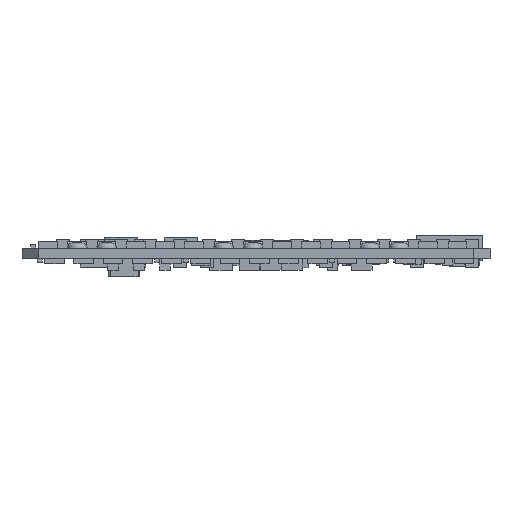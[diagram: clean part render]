
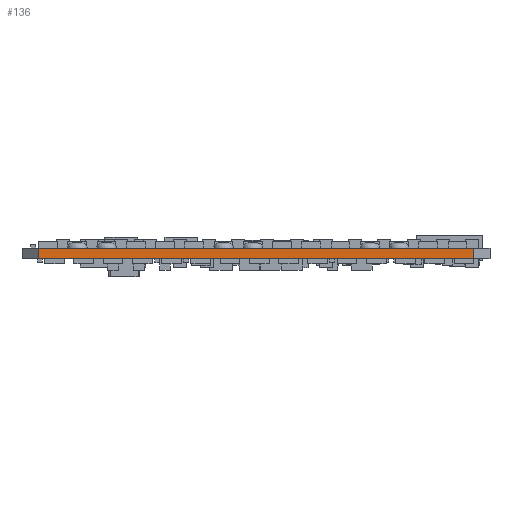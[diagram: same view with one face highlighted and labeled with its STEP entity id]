
A CAD part, front view. The second image highlights one B-rep face of the part: STEP entity #136.
In plain terms, the highlighted face is a extrusion surface.
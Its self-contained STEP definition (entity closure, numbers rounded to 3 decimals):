
#21 = EDGE_CURVE('',#22,#24,#26,.T.);
#22 = VERTEX_POINT('',#23);
#23 = CARTESIAN_POINT('',(2.5,0.,0.));
#24 = VERTEX_POINT('',#25);
#25 = CARTESIAN_POINT('',(2.5,0.,1.6));
#26 = SURFACE_CURVE('',#27,(#31,#44),.PCURVE_S1.);
#27 = LINE('',#28,#29);
#28 = CARTESIAN_POINT('',(2.5,0.,0.));
#29 = VECTOR('',#30,1.);
#30 = DIRECTION('',(0.,0.,1.));
#31 = PCURVE('',#32,#38);
#32 = SURFACE_OF_LINEAR_EXTRUSION('',#33,#36);
#33 = B_SPLINE_CURVE_WITH_KNOTS('',1,(#34,#35),.UNSPECIFIED.,.F.,.F.,(2,
    2),(0.,1.),.PIECEWISE_BEZIER_KNOTS.);
#34 = CARTESIAN_POINT('',(2.5,0.,0.));
#35 = CARTESIAN_POINT('',(0.,2.5,0.));
#36 = VECTOR('',#37,1.);
#37 = DIRECTION('',(0.,0.,-1.));
#38 = DEFINITIONAL_REPRESENTATION('',(#39),#43);
#39 = LINE('',#40,#41);
#40 = CARTESIAN_POINT('',(0.,0.));
#41 = VECTOR('',#42,1.);
#42 = DIRECTION('',(0.,-1.));
#43 = ( GEOMETRIC_REPRESENTATION_CONTEXT(2) 
PARAMETRIC_REPRESENTATION_CONTEXT() REPRESENTATION_CONTEXT('2D SPACE',''
  ) );
#44 = PCURVE('',#45,#51);
#45 = SURFACE_OF_LINEAR_EXTRUSION('',#46,#49);
#46 = B_SPLINE_CURVE_WITH_KNOTS('',1,(#47,#48),.UNSPECIFIED.,.F.,.F.,(2,
    2),(0.,1.),.PIECEWISE_BEZIER_KNOTS.);
#47 = CARTESIAN_POINT('',(69.5,0.,0.));
#48 = CARTESIAN_POINT('',(2.5,0.,0.));
#49 = VECTOR('',#50,1.);
#50 = DIRECTION('',(0.,0.,-1.));
#51 = DEFINITIONAL_REPRESENTATION('',(#52),#56);
#52 = LINE('',#53,#54);
#53 = CARTESIAN_POINT('',(1.,0.));
#54 = VECTOR('',#55,1.);
#55 = DIRECTION('',(0.,-1.));
#56 = ( GEOMETRIC_REPRESENTATION_CONTEXT(2) 
PARAMETRIC_REPRESENTATION_CONTEXT() REPRESENTATION_CONTEXT('2D SPACE',''
  ) );
#73 = PLANE('',#74);
#74 = AXIS2_PLACEMENT_3D('',#75,#76,#77);
#75 = CARTESIAN_POINT('',(36.,31.,1.6));
#76 = DIRECTION('',(0.,0.,-1.));
#77 = DIRECTION('',(-1.,0.,0.));
#126 = PLANE('',#127);
#127 = AXIS2_PLACEMENT_3D('',#128,#129,#130);
#128 = CARTESIAN_POINT('',(36.,31.,0.));
#129 = DIRECTION('',(0.,0.,-1.));
#130 = DIRECTION('',(-1.,0.,0.));
#136 = ADVANCED_FACE('',(#137),#45,.T.);
#137 = FACE_BOUND('',#138,.T.);
#138 = EDGE_LOOP('',(#139,#170,#189,#190));
#139 = ORIENTED_EDGE('',*,*,#140,.T.);
#140 = EDGE_CURVE('',#141,#143,#145,.T.);
#141 = VERTEX_POINT('',#142);
#142 = CARTESIAN_POINT('',(69.5,0.,0.));
#143 = VERTEX_POINT('',#144);
#144 = CARTESIAN_POINT('',(69.5,0.,1.6));
#145 = SURFACE_CURVE('',#146,(#150,#157),.PCURVE_S1.);
#146 = LINE('',#147,#148);
#147 = CARTESIAN_POINT('',(69.5,0.,0.));
#148 = VECTOR('',#149,1.);
#149 = DIRECTION('',(0.,0.,1.));
#150 = PCURVE('',#45,#151);
#151 = DEFINITIONAL_REPRESENTATION('',(#152),#156);
#152 = LINE('',#153,#154);
#153 = CARTESIAN_POINT('',(0.,0.));
#154 = VECTOR('',#155,1.);
#155 = DIRECTION('',(0.,-1.));
#156 = ( GEOMETRIC_REPRESENTATION_CONTEXT(2) 
PARAMETRIC_REPRESENTATION_CONTEXT() REPRESENTATION_CONTEXT('2D SPACE',''
  ) );
#157 = PCURVE('',#158,#164);
#158 = SURFACE_OF_LINEAR_EXTRUSION('',#159,#162);
#159 = B_SPLINE_CURVE_WITH_KNOTS('',1,(#160,#161),.UNSPECIFIED.,.F.,.F.,
  (2,2),(0.,1.),.PIECEWISE_BEZIER_KNOTS.);
#160 = CARTESIAN_POINT('',(72.,2.5,0.));
#161 = CARTESIAN_POINT('',(69.5,0.,0.));
#162 = VECTOR('',#163,1.);
#163 = DIRECTION('',(0.,0.,-1.));
#164 = DEFINITIONAL_REPRESENTATION('',(#165),#169);
#165 = LINE('',#166,#167);
#166 = CARTESIAN_POINT('',(1.,0.));
#167 = VECTOR('',#168,1.);
#168 = DIRECTION('',(0.,-1.));
#169 = ( GEOMETRIC_REPRESENTATION_CONTEXT(2) 
PARAMETRIC_REPRESENTATION_CONTEXT() REPRESENTATION_CONTEXT('2D SPACE',''
  ) );
#170 = ORIENTED_EDGE('',*,*,#171,.T.);
#171 = EDGE_CURVE('',#143,#24,#172,.T.);
#172 = SURFACE_CURVE('',#173,(#176,#183),.PCURVE_S1.);
#173 = B_SPLINE_CURVE_WITH_KNOTS('',1,(#174,#175),.UNSPECIFIED.,.F.,.F.,
  (2,2),(0.,1.),.PIECEWISE_BEZIER_KNOTS.);
#174 = CARTESIAN_POINT('',(69.5,0.,1.6));
#175 = CARTESIAN_POINT('',(2.5,0.,1.6));
#176 = PCURVE('',#45,#177);
#177 = DEFINITIONAL_REPRESENTATION('',(#178),#182);
#178 = LINE('',#179,#180);
#179 = CARTESIAN_POINT('',(0.,-1.6));
#180 = VECTOR('',#181,1.);
#181 = DIRECTION('',(1.,0.));
#182 = ( GEOMETRIC_REPRESENTATION_CONTEXT(2) 
PARAMETRIC_REPRESENTATION_CONTEXT() REPRESENTATION_CONTEXT('2D SPACE',''
  ) );
#183 = PCURVE('',#73,#184);
#184 = DEFINITIONAL_REPRESENTATION('',(#185),#188);
#185 = B_SPLINE_CURVE_WITH_KNOTS('',1,(#186,#187),.UNSPECIFIED.,.F.,.F.,
  (2,2),(0.,1.),.PIECEWISE_BEZIER_KNOTS.);
#186 = CARTESIAN_POINT('',(-33.5,-31.));
#187 = CARTESIAN_POINT('',(33.5,-31.));
#188 = ( GEOMETRIC_REPRESENTATION_CONTEXT(2) 
PARAMETRIC_REPRESENTATION_CONTEXT() REPRESENTATION_CONTEXT('2D SPACE',''
  ) );
#189 = ORIENTED_EDGE('',*,*,#21,.F.);
#190 = ORIENTED_EDGE('',*,*,#191,.F.);
#191 = EDGE_CURVE('',#141,#22,#192,.T.);
#192 = SURFACE_CURVE('',#193,(#196,#203),.PCURVE_S1.);
#193 = B_SPLINE_CURVE_WITH_KNOTS('',1,(#194,#195),.UNSPECIFIED.,.F.,.F.,
  (2,2),(0.,1.),.PIECEWISE_BEZIER_KNOTS.);
#194 = CARTESIAN_POINT('',(69.5,0.,0.));
#195 = CARTESIAN_POINT('',(2.5,0.,0.));
#196 = PCURVE('',#45,#197);
#197 = DEFINITIONAL_REPRESENTATION('',(#198),#202);
#198 = LINE('',#199,#200);
#199 = CARTESIAN_POINT('',(0.,0.));
#200 = VECTOR('',#201,1.);
#201 = DIRECTION('',(1.,0.));
#202 = ( GEOMETRIC_REPRESENTATION_CONTEXT(2) 
PARAMETRIC_REPRESENTATION_CONTEXT() REPRESENTATION_CONTEXT('2D SPACE',''
  ) );
#203 = PCURVE('',#126,#204);
#204 = DEFINITIONAL_REPRESENTATION('',(#205),#208);
#205 = B_SPLINE_CURVE_WITH_KNOTS('',1,(#206,#207),.UNSPECIFIED.,.F.,.F.,
  (2,2),(0.,1.),.PIECEWISE_BEZIER_KNOTS.);
#206 = CARTESIAN_POINT('',(-33.5,-31.));
#207 = CARTESIAN_POINT('',(33.5,-31.));
#208 = ( GEOMETRIC_REPRESENTATION_CONTEXT(2) 
PARAMETRIC_REPRESENTATION_CONTEXT() REPRESENTATION_CONTEXT('2D SPACE',''
  ) );
